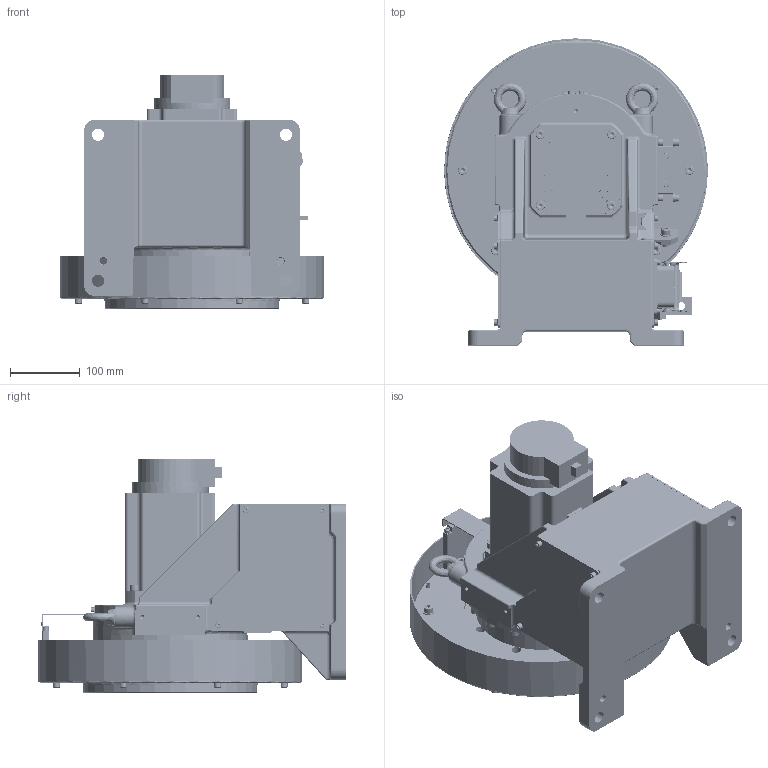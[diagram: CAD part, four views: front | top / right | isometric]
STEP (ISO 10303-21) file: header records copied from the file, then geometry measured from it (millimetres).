
FILE_DESCRIPTION (( 'STEP AP214' ), '1' );
FILE_NAME ('QJ1P500-1(变位机动力总成).STEP', '2018-11-27T01:43:51', ( 'Windows 用户' ), ( '创新计算机公司' ), 'SwSTEP 2.0', 'SolidWorks 2016', '' );
FILE_SCHEMA (( 'AUTOMOTIVE_DESIGN' ));
Length unit declared in the file: millimetre
Products named in the file (57): B02050400866; 120078140000; 130188P10000; B04070800056; 311008820000; 130178P10000; B04000600056; 130018P10000; 130168P10000; 610048990006; 130158P10000; 610048990005; QJ1P500-1(曹弇儂雄薯軞傖); 130148P10000; 610048990004; B02051002096; 130138P10000; 610048990001; B02050808066; 130098P10000; 610048990003; B02050803096; 130198P10000; B07010000802; B02050802566; 130088P10000; B07010000602; B02050802096; 130078P10000; 010438060000; B02050802066; 130068P10000; 010358030000; B02050801566; 130108P10000; 010098140000_ASM; B02050603066; 130118P10000; 010118140000; B02050601566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
Assembly tree (197 placements, depth 3):
  QJ1P500-1(曹弇儂雄薯軞傖)
    130018P10000
    311008820000
    120078140000
    010158820000
    130028P10000
    130038P10000
    130048P10000
    130058P10000
    130128P10000
    130118P10000
    130108P10000
    130068P10000
    130078P10000
    130088P10000  x2
    130198P10000  x2
    130098P10000  x2
    130138P10000
    130148P10000
    130158P10000
    130168P10000
    130178P10000
    130188P10000
    530078P10000
    B190111500B0
    B190118250C0
    100078010000  x2
    B190115500B0
    010098140000_ASM
      010108140000
      010118140000
    010358030000  x2
    010438060000
    B07010000602  x4
    B07010000802  x9
    610048990003  x4
    610048990001  x10
    610048990004  x10
    610048990005  x33
    610048990006  x6
    B04000600056  x2
    B04070800056
    B02050400866  x4
    B02050401066  x4
    B02050501066  x8
    B02050507066  x2
    B02050601066  x8
    B02170601266
    B02050601566  x4
    B02050603066  x2
    B02050801566  x8
    B02050802066
    B02050802096  x12
    B02050802566  x4
    B02050803096  x16
    B02050808066
    B02051002096  x6
Bounding box: 379 x 441.5 x 336.5 mm (x, y, z)
Volume: 2784239.3 mm3; surface area: 1911796.9 mm2
Topology: 161 solids, 416 shells, 6865 faces, 16862 edges, 10348 vertices
Faces by surface type: cylinder 2239, plane 1811, cone 1653, bspline 1144, torus 18
Entity records: 195307 total; most frequent: CARTESIAN_POINT 89208, ORIENTED_EDGE 21684, DIRECTION 20675, EDGE_CURVE 11057, AXIS2_PLACEMENT_3D 8163, VERTEX_POINT 6970, EDGE_LOOP 5095, ADVANCED_FACE 4517
